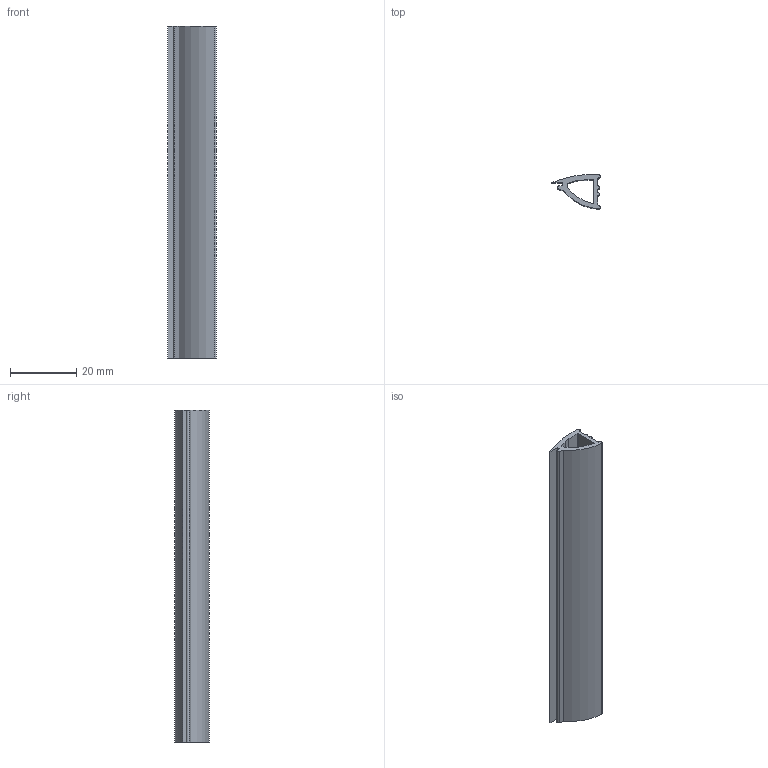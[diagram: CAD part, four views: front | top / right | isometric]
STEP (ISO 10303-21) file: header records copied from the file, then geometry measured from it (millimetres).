
FILE_DESCRIPTION (( 'STEP AP214' ), '1' );
FILE_NAME ('F50801.step', '2024-12-03T16:17:45', ( '' ), ( '' ), 'SwSTEP 2.0', 'SolidWorks 2023', '' );
FILE_SCHEMA (( 'AUTOMOTIVE_DESIGN' ));
Length unit declared in the file: millimetre
Products named in the file (1): F50801
Bounding box: 14.62 x 10.33 x 100 mm (x, y, z)
Volume: 4996.8 mm3; surface area: 7430.8 mm2
Topology: 1 solids, 1 shells, 30 faces, 84 edges, 56 vertices
Faces by surface type: cylinder 19, plane 11
Entity records: 1013 total; most frequent: DIRECTION 184, CARTESIAN_POINT 171, ORIENTED_EDGE 168, EDGE_CURVE 84, AXIS2_PLACEMENT_3D 69, VERTEX_POINT 56, VECTOR 46, LINE 46
